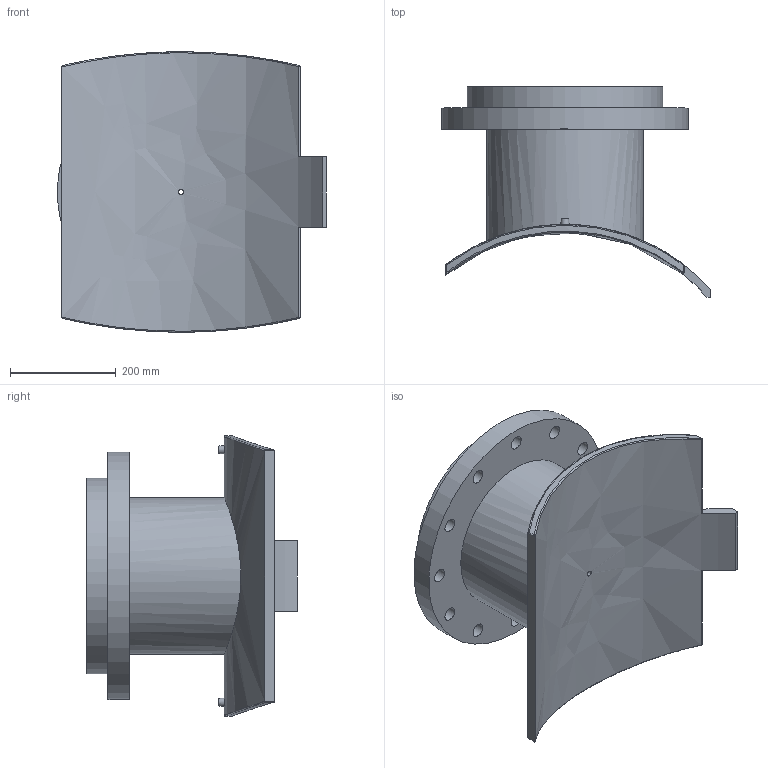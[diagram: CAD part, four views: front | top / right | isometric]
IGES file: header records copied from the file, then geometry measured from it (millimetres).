
Global section: file name: 495903710300T; native system: Autodesk Inventor 2019; preprocessor: unknown; author: KIM; date: 20240403.210504; units: millimetre
Bounding box: 508.15 x 397.46 x 529.99 mm (x, y, z)
Volume: 13901493.2 mm3; surface area: 1301015.9 mm2
Topology: 1 solids, 1 shells, 62 faces, 163 edges, 126 vertices
Faces by surface type: bspline 62
